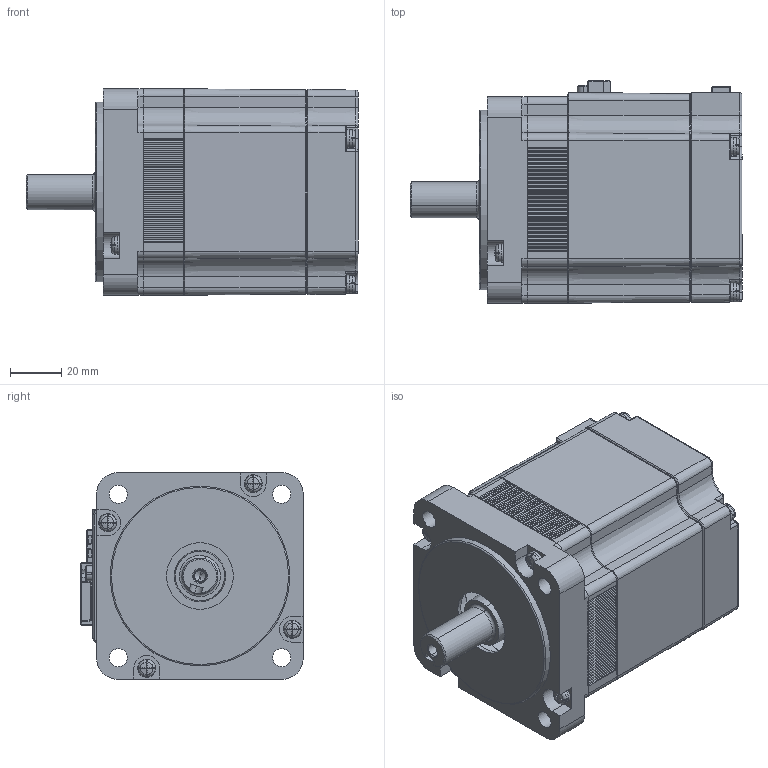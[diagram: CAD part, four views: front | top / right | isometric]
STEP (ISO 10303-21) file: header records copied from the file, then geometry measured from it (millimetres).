
FILE_DESCRIPTION (( 'STEP AP203' ), '1' );
FILE_NAME ('80-200W_BR(諼睡 歎睡辨).STEP', '2022-09-07T06:46:02', ( '' ), ( '' ), 'SwSTEP 2.0', 'SolidWorks 2020', '' );
FILE_SCHEMA (( 'CONFIG_CONTROL_DESIGN' ));
Length unit declared in the file: millimetre
Products named in the file (9): __80 ENCODER COVER___________ ______.STEP; __80-200,400W BRACKET(BRAKE)___________ ______.STEP; 80-200W_BR(諼睡 歎睡辨); __80-200W BRAKE SHAFT.STEP; ENCODER Receptacle.STEP; 80-750W Ы楠雖; __80-200W FRAME.STEP; m4x35_____.STEP; POWER RECEPTACLE.STEP
Assembly tree (15 placements, depth 2):
  80-200W_BR(諼睡 歎睡辨)
    __80-200W BRAKE SHAFT.STEP
    __80-200W FRAME.STEP
    ENCODER Receptacle.STEP
    POWER RECEPTACLE.STEP
    m4x35_____.STEP  x8
    __80 ENCODER COVER___________ ______.STEP
    __80-200,400W BRACKET(BRAKE)___________ ______.STEP
    80-750W Ы楠雖
Bounding box: 129.3 x 86.6 x 80.4 mm (x, y, z)
Volume: 226690.6 mm3; surface area: 104692.1 mm2
Topology: 15 solids, 21 shells, 2277 faces, 5836 edges, 3658 vertices
Faces by surface type: plane 1085, cylinder 640, bspline 248, cone 169, torus 77, sphere 58
Full cylindrical faces by diameter (mm): 4.5 x4, 7 x4, 26 x1, 47 x1, 51 x1, 69.998 x1, 75.798 x1
Entity records: 70428 total; most frequent: CARTESIAN_POINT 20229, ORIENTED_EDGE 10494, DIRECTION 9952, EDGE_CURVE 5247, AXIS2_PLACEMENT_3D 3430, VERTEX_POINT 3306, LINE 3092, VECTOR 3092
